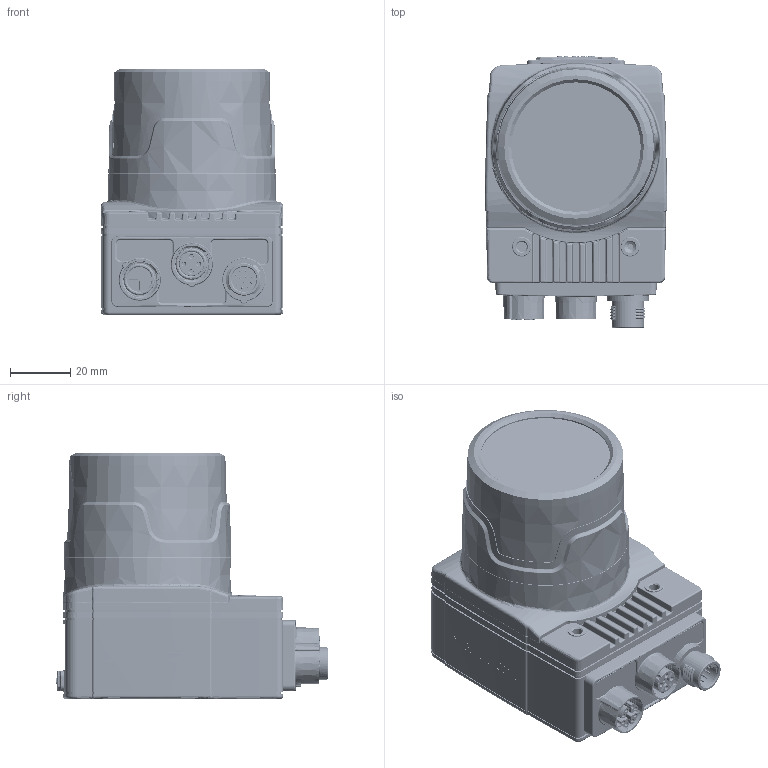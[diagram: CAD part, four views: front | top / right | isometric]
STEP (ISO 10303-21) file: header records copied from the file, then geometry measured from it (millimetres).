
FILE_DESCRIPTION (( 'STEP AP214' ), '1' );
FILE_NAME ('IS016-02_5-12-17.STEP', '2017-05-22T16:08:09', ( 'Cognoid' ), ( 'Microsoft' ), 'SwSTEP 2.0', 'SolidWorks 2017', '' );
FILE_SCHEMA (( 'AUTOMOTIVE_DESIGN' ));
Length unit declared in the file: millimetre
Products named in the file (1): IS016-02_5-12-17
Bounding box: 60.5 x 90.09 x 81.8 mm (x, y, z)
Volume: 174868.4 mm3; surface area: 68295.7 mm2
Topology: 13 solids, 70 shells, 11896 faces, 30712 edges, 20032 vertices
Faces by surface type: plane 7188, bspline 2829, cylinder 1365, cone 397, torus 117
Entity records: 527967 total; most frequent: CARTESIAN_POINT 231003, ORIENTED_EDGE 61194, DIRECTION 45794, EDGE_CURVE 30597, VECTOR 20368, LINE 20368, VERTEX_POINT 20032, EDGE_LOOP 13189
